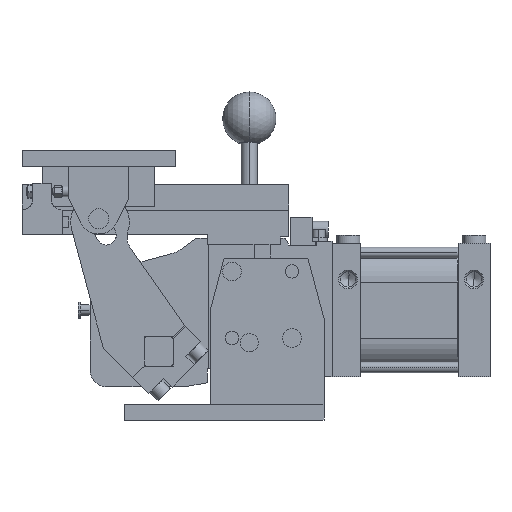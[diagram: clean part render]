
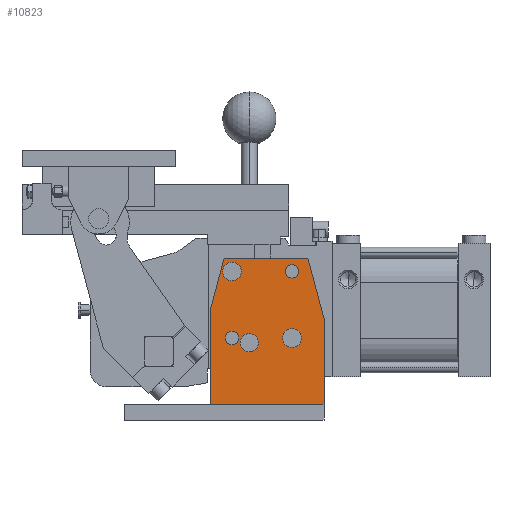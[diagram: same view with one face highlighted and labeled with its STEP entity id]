
A CAD part, front view. The second image highlights one B-rep face of the part: STEP entity #10823.
In plain terms, the highlighted planar face has unit normal (0, -1, 0) as drawn and (0, 0, 1) by its records, which use the part's own axes.
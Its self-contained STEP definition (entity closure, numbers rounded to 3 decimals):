
#79 = CARTESIAN_POINT ( 'NONE',  ( 10., -100., 39. ) ) ;
#242 = VERTEX_POINT ( 'NONE', #20798 ) ;
#264 = CARTESIAN_POINT ( 'NONE',  ( 5., -55., 39. ) ) ;
#388 = CARTESIAN_POINT ( 'NONE',  ( 15., -55., 39. ) ) ;
#429 = FACE_OUTER_BOUND ( 'NONE', #14963, .T. ) ;
#652 = DIRECTION ( 'NONE',  ( -1., 0., 0. ) ) ;
#688 = LINE ( 'NONE', #15889, #19158 ) ;
#828 = DIRECTION ( 'NONE',  ( -1., 0., 0. ) ) ;
#833 = EDGE_CURVE ( 'NONE', #9923, #3716, #18446, .T. ) ;
#1024 = ORIENTED_EDGE ( 'NONE', *, *, #16057, .T. ) ;
#1650 = CARTESIAN_POINT ( 'NONE',  ( 6.5, -68., 39. ) ) ;
#1869 = AXIS2_PLACEMENT_3D ( 'NONE', #9395, #23920, #7231 ) ;
#2063 = VERTEX_POINT ( 'NONE', #19679 ) ;
#2181 = CARTESIAN_POINT ( 'NONE',  ( 10., -100., 39. ) ) ;
#2184 = AXIS2_PLACEMENT_3D ( 'NONE', #14898, #5528, #22338 ) ;
#2852 = FACE_BOUND ( 'NONE', #6205, .T. ) ;
#3058 = DIRECTION ( 'NONE',  ( -1., 0., 0. ) ) ;
#3188 = EDGE_CURVE ( 'NONE', #12738, #10239, #19118, .T. ) ;
#3198 = DIRECTION ( 'NONE',  ( 0., 1., 0. ) ) ;
#3321 = ORIENTED_EDGE ( 'NONE', *, *, #3188, .F. ) ;
#3423 = CARTESIAN_POINT ( 'NONE',  ( 67., -55., 39. ) ) ;
#3512 = ORIENTED_EDGE ( 'NONE', *, *, #13208, .F. ) ;
#3666 = CIRCLE ( 'NONE', #16082, 7. ) ;
#3716 = VERTEX_POINT ( 'NONE', #3423 ) ;
#3788 = VERTEX_POINT ( 'NONE', #23887 ) ;
#3884 = VERTEX_POINT ( 'NONE', #3895 ) ;
#3895 = CARTESIAN_POINT ( 'NONE',  ( 32.5, -39., 39. ) ) ;
#4447 = CARTESIAN_POINT ( 'NONE',  ( 17., -100., 39. ) ) ;
#4770 = DIRECTION ( 'NONE',  ( 0., -1., 0. ) ) ;
#5060 = CARTESIAN_POINT ( 'NONE',  ( 13.375, -68., 39. ) ) ;
#5328 = EDGE_LOOP ( 'NONE', ( #15966, #5819 ) ) ;
#5396 = CARTESIAN_POINT ( 'NONE',  ( 70., -111.942, 39. ) ) ;
#5528 = DIRECTION ( 'NONE',  ( 0., 0., 1. ) ) ;
#5819 = ORIENTED_EDGE ( 'NONE', *, *, #16870, .F. ) ;
#6059 = ORIENTED_EDGE ( 'NONE', *, *, #13110, .T. ) ;
#6205 = EDGE_LOOP ( 'NONE', ( #8258, #11856 ) ) ;
#6546 = ORIENTED_EDGE ( 'NONE', *, *, #24060, .T. ) ;
#6596 = CARTESIAN_POINT ( 'NONE',  ( 10., -55., 39. ) ) ;
#6788 = DIRECTION ( 'NONE',  ( -1., 0., 0. ) ) ;
#6835 = ORIENTED_EDGE ( 'NONE', *, *, #833, .F. ) ;
#7058 = ORIENTED_EDGE ( 'NONE', *, *, #11148, .F. ) ;
#7231 = DIRECTION ( 'NONE',  ( 1., 0., 0. ) ) ;
#7445 = AXIS2_PLACEMENT_3D ( 'NONE', #79, #22236, #7506 ) ;
#7506 = DIRECTION ( 'NONE',  ( -1., 0., 0. ) ) ;
#7510 = EDGE_CURVE ( 'NONE', #3788, #14909, #11386, .T. ) ;
#7563 = AXIS2_PLACEMENT_3D ( 'NONE', #21614, #17818, #17941 ) ;
#7873 = DIRECTION ( 'NONE',  ( 1., 0., 0. ) ) ;
#7904 = CARTESIAN_POINT ( 'NONE',  ( 53., -55., 39. ) ) ;
#7942 = CARTESIAN_POINT ( 'NONE',  ( -39.5, 0., 39. ) ) ;
#7981 = EDGE_CURVE ( 'NONE', #16679, #2063, #10748, .T. ) ;
#7997 = CIRCLE ( 'NONE', #2184, 5. ) ;
#8092 = PLANE ( 'NONE',  #16453 ) ;
#8258 = ORIENTED_EDGE ( 'NONE', *, *, #8747, .F. ) ;
#8707 = DIRECTION ( 'NONE',  ( 0., 0., 1. ) ) ;
#8747 = EDGE_CURVE ( 'NONE', #11286, #14167, #21949, .T. ) ;
#8992 = CARTESIAN_POINT ( 'NONE',  ( 70., -111.942, 39. ) ) ;
#9179 = EDGE_CURVE ( 'NONE', #3884, #13901, #21478, .T. ) ;
#9395 = CARTESIAN_POINT ( 'NONE',  ( 6.5, -68., 39. ) ) ;
#9510 = VECTOR ( 'NONE', #18169, 1000. ) ;
#9667 = EDGE_LOOP ( 'NONE', ( #3321, #3512 ) ) ;
#9901 = CARTESIAN_POINT ( 'NONE',  ( 60., -100., 39. ) ) ;
#9923 = VERTEX_POINT ( 'NONE', #7904 ) ;
#10239 = VERTEX_POINT ( 'NONE', #4447 ) ;
#10539 = DIRECTION ( 'NONE',  ( 0., 0., 1. ) ) ;
#10605 = EDGE_CURVE ( 'NONE', #13901, #242, #21454, .T. ) ;
#10654 = EDGE_LOOP ( 'NONE', ( #6835, #15848 ) ) ;
#10748 = LINE ( 'NONE', #20127, #19182 ) ;
#10823 = ADVANCED_FACE ( 'NONE', ( #13814, #17214, #2852, #15391, #17091, #429 ), #8092, .F. ) ;
#10897 = CARTESIAN_POINT ( 'NONE',  ( 60., -100., 39. ) ) ;
#11148 = EDGE_CURVE ( 'NONE', #14909, #3788, #20527, .T. ) ;
#11286 = VERTEX_POINT ( 'NONE', #23764 ) ;
#11386 = CIRCLE ( 'NONE', #18768, 6.875 ) ;
#11434 = AXIS2_PLACEMENT_3D ( 'NONE', #10897, #10539, #14203 ) ;
#11534 = DIRECTION ( 'NONE',  ( 0., 0., 1. ) ) ;
#11856 = ORIENTED_EDGE ( 'NONE', *, *, #17947, .F. ) ;
#11859 = CARTESIAN_POINT ( 'NONE',  ( 0., 0., 39. ) ) ;
#11988 = CIRCLE ( 'NONE', #15099, 7. ) ;
#12123 = LINE ( 'NONE', #17732, #22556 ) ;
#12738 = VERTEX_POINT ( 'NONE', #18264 ) ;
#12967 = VECTOR ( 'NONE', #22031, 1000. ) ;
#13110 = EDGE_CURVE ( 'NONE', #21157, #16679, #13113, .T. ) ;
#13113 = LINE ( 'NONE', #8992, #12967 ) ;
#13208 = EDGE_CURVE ( 'NONE', #10239, #12738, #3666, .T. ) ;
#13246 = CIRCLE ( 'NONE', #18313, 5. ) ;
#13814 = FACE_BOUND ( 'NONE', #17321, .T. ) ;
#13901 = VERTEX_POINT ( 'NONE', #20233 ) ;
#13970 = CARTESIAN_POINT ( 'NONE',  ( 60., -55., 39. ) ) ;
#14167 = VERTEX_POINT ( 'NONE', #23384 ) ;
#14203 = DIRECTION ( 'NONE',  ( -1., 0., 0. ) ) ;
#14380 = DIRECTION ( 'NONE',  ( 0., 0., 1. ) ) ;
#14425 = DIRECTION ( 'NONE',  ( 1., 0., 0. ) ) ;
#14553 = EDGE_CURVE ( 'NONE', #3716, #9923, #11988, .T. ) ;
#14898 = CARTESIAN_POINT ( 'NONE',  ( 10., -55., 39. ) ) ;
#14909 = VERTEX_POINT ( 'NONE', #5060 ) ;
#14963 = EDGE_LOOP ( 'NONE', ( #19365, #18384, #1024, #6059, #22909, #6546 ) ) ;
#15099 = AXIS2_PLACEMENT_3D ( 'NONE', #13970, #21412, #6788 ) ;
#15253 = ORIENTED_EDGE ( 'NONE', *, *, #7510, .F. ) ;
#15391 = FACE_BOUND ( 'NONE', #9667, .T. ) ;
#15395 = CARTESIAN_POINT ( 'NONE',  ( 25., -124., 39. ) ) ;
#15506 = DIRECTION ( 'NONE',  ( 0., 0., -1. ) ) ;
#15753 = DIRECTION ( 'NONE',  ( -1., 0., 0. ) ) ;
#15774 = DIRECTION ( 'NONE',  ( -0.966, 0.259, 0. ) ) ;
#15848 = ORIENTED_EDGE ( 'NONE', *, *, #14553, .F. ) ;
#15889 = CARTESIAN_POINT ( 'NONE',  ( 70., -49.048, 39. ) ) ;
#15966 = ORIENTED_EDGE ( 'NONE', *, *, #22713, .F. ) ;
#16057 = EDGE_CURVE ( 'NONE', #242, #21157, #12123, .T. ) ;
#16082 = AXIS2_PLACEMENT_3D ( 'NONE', #2181, #11534, #828 ) ;
#16453 = AXIS2_PLACEMENT_3D ( 'NONE', #11859, #15506, #15753 ) ;
#16679 = VERTEX_POINT ( 'NONE', #5396 ) ;
#16694 = CIRCLE ( 'NONE', #20610, 5. ) ;
#16870 = EDGE_CURVE ( 'NONE', #19204, #22182, #16694, .T. ) ;
#17091 = FACE_BOUND ( 'NONE', #10654, .T. ) ;
#17214 = FACE_BOUND ( 'NONE', #5328, .T. ) ;
#17321 = EDGE_LOOP ( 'NONE', ( #7058, #15253 ) ) ;
#17732 = CARTESIAN_POINT ( 'NONE',  ( 25., -124., 39. ) ) ;
#17818 = DIRECTION ( 'NONE',  ( 0., 0., 1. ) ) ;
#17941 = DIRECTION ( 'NONE',  ( -1., 0., 0. ) ) ;
#17947 = EDGE_CURVE ( 'NONE', #14167, #11286, #13246, .T. ) ;
#18169 = DIRECTION ( 'NONE',  ( -1., 0., 0. ) ) ;
#18264 = CARTESIAN_POINT ( 'NONE',  ( 3., -100., 39. ) ) ;
#18313 = AXIS2_PLACEMENT_3D ( 'NONE', #9901, #22683, #652 ) ;
#18384 = ORIENTED_EDGE ( 'NONE', *, *, #10605, .T. ) ;
#18446 = CIRCLE ( 'NONE', #7563, 7. ) ;
#18768 = AXIS2_PLACEMENT_3D ( 'NONE', #1650, #8707, #14425 ) ;
#19118 = CIRCLE ( 'NONE', #7445, 7. ) ;
#19158 = VECTOR ( 'NONE', #15774, 1000. ) ;
#19182 = VECTOR ( 'NONE', #3198, 1000. ) ;
#19204 = VERTEX_POINT ( 'NONE', #388 ) ;
#19365 = ORIENTED_EDGE ( 'NONE', *, *, #9179, .T. ) ;
#19679 = CARTESIAN_POINT ( 'NONE',  ( 70., -49.048, 39. ) ) ;
#20127 = CARTESIAN_POINT ( 'NONE',  ( 70., -49.048, 39. ) ) ;
#20233 = CARTESIAN_POINT ( 'NONE',  ( -39.5, -39., 39. ) ) ;
#20339 = VECTOR ( 'NONE', #4770, 1000. ) ;
#20527 = CIRCLE ( 'NONE', #1869, 6.875 ) ;
#20610 = AXIS2_PLACEMENT_3D ( 'NONE', #6596, #14380, #3058 ) ;
#20798 = CARTESIAN_POINT ( 'NONE',  ( -39.5, -124., 39. ) ) ;
#21157 = VERTEX_POINT ( 'NONE', #15395 ) ;
#21412 = DIRECTION ( 'NONE',  ( 0., 0., 1. ) ) ;
#21454 = LINE ( 'NONE', #7942, #20339 ) ;
#21478 = LINE ( 'NONE', #23668, #9510 ) ;
#21614 = CARTESIAN_POINT ( 'NONE',  ( 60., -55., 39. ) ) ;
#21949 = CIRCLE ( 'NONE', #11434, 5. ) ;
#22031 = DIRECTION ( 'NONE',  ( 0.966, 0.259, 0. ) ) ;
#22182 = VERTEX_POINT ( 'NONE', #264 ) ;
#22236 = DIRECTION ( 'NONE',  ( 0., 0., 1. ) ) ;
#22338 = DIRECTION ( 'NONE',  ( -1., 0., 0. ) ) ;
#22556 = VECTOR ( 'NONE', #7873, 1000. ) ;
#22683 = DIRECTION ( 'NONE',  ( 0., 0., 1. ) ) ;
#22713 = EDGE_CURVE ( 'NONE', #22182, #19204, #7997, .T. ) ;
#22909 = ORIENTED_EDGE ( 'NONE', *, *, #7981, .T. ) ;
#23384 = CARTESIAN_POINT ( 'NONE',  ( 65., -100., 39. ) ) ;
#23668 = CARTESIAN_POINT ( 'NONE',  ( -51.5, -39., 39. ) ) ;
#23764 = CARTESIAN_POINT ( 'NONE',  ( 55., -100., 39. ) ) ;
#23887 = CARTESIAN_POINT ( 'NONE',  ( -0.375, -68., 39. ) ) ;
#23920 = DIRECTION ( 'NONE',  ( 0., 0., 1. ) ) ;
#24060 = EDGE_CURVE ( 'NONE', #2063, #3884, #688, .T. ) ;
